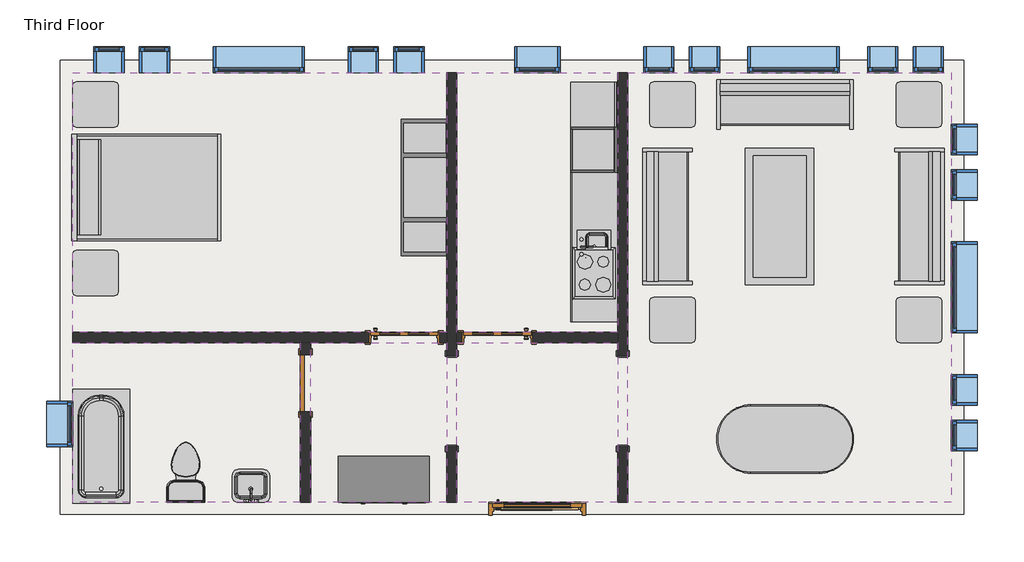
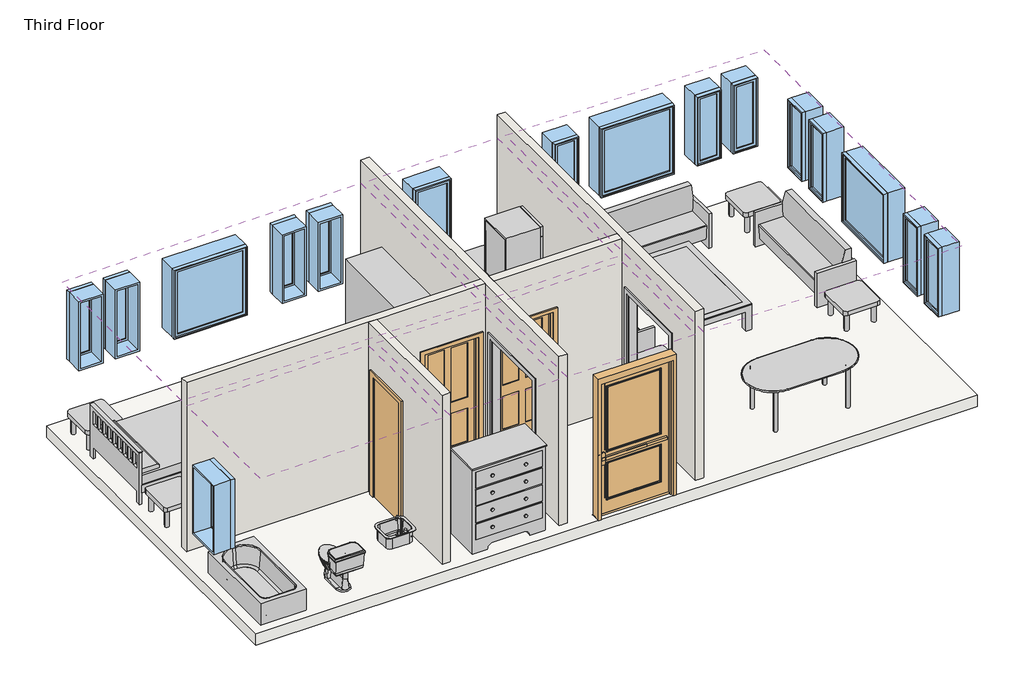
# One storey, incomplete: 17 windows, 15 furniture elements, 6 coverings, 6 proxies, 4 doors, 4 flow terminals, 4 walls, 1 slab.
"""IFC4 building model written with IfcOpenShell, lengths in millimetres."""

from ifc_helpers import new_model, si_unit, frame, origin, place, context, project, spatial, polyline, outline, extrude, faceted_brep, transform, mapped, element, save
from components import m_cook_top_4_unit2_0615_x_500mm_249f3515, m_dishwasher_610_x_610_x_875mm_54ecfc4c, m_kitchenette_medium_m_kitchenette_medium_3ff942c7, m_passage_opening_cased_1220_x_2134_mm_87a8d9c2, m_refrigerator_600_x_660mm_a466bf94, m_door_exterior_single_two_lite_1200_x_2400mm_30e12bfc, m_door_interior_single_4_panel_wood_900_x_2100mm_1f4ed184, m_door_interior_single_4_panel_wood_900_x_2100mm_40914eee, m_single_flush_0762_x_2134mm_0d89e411, m_sink_kitchen_island_450_x_450mm_f969cf2d, m_sink_vanity_square_500_x_440mm_1e229b74, m_toilet_domestic_3d_m_toilet_domestic_3d_5cb52bd4, m_toilet_domestic_3d_m_toilet_domestic_3d_183bbd19, m_tub_rectangular_3d_m_tub_rectangular_3d_3a981ad5, m_bed_shaker_1422_x_1981mm_double_096e7f55, m_counter_top_w_sink_hole_600mm_depth_8ccae52a, m_dresser_1220_x_1525_x_0610mm_18e1f140, m_entertainment_center_1830_x_1830_x_0610mm_f77a9b93, m_sofa_1830mm_f9e8a66b, m_table_coffee_0915_x_1830_x_0457mm_134cd960, m_table_dining_oval_0915_x_1830mm_a7cfbe21, m_table_end_0610_x_0160mm_cb6ea12e, m_fixed_0406_x_1220mm_57fee329, m_fixed_0406_x_1220mm_85c28f40, m_fixed_0610_x_1220mm_2c28ef1d, m_fixed_1220_x_1220_e08ff7af

model = new_model("IFC4")

# Units and contexts
model_context = context("Model", 3, world=origin())
ifc_project = project(units=[si_unit("LENGTHUNIT", "METRE", prefix="MILLI")], contexts=[model_context])

# Site, building, storey
site = spatial("IfcSite", under=ifc_project)
building = spatial("IfcBuilding", under=site)
storey = spatial("IfcBuildingStorey", under=building, Name="Third Floor", Elevation=6000.0)

# Proxies
placement = place(None, origin())
m_cook_top_4_unit2_0615_x_500mm_shape = m_cook_top_4_unit2_0615_x_500mm_249f3515(model_context)
element("IfcBuildingElementProxy", 1, Name="M_Cook Top-4 Unit2 : 0615 x 500mm", ObjectType="M_Cook Top-4 Unit2 : 0615 x 500mm", at=placement, inside=storey, context=model_context, shape_type="MappedRepresentation", body=[
    mapped(m_cook_top_4_unit2_0615_x_500mm_shape, transform((-11224.1822145, 11168.140104, 6031.0), x_axis=(0.0, 1.0, 0.0), y_axis=(-1.0, 0.0, 0.0), z_axis=(0.0, 0.0, 1.0))),
])
m_dishwasher_610_x_610_x_875mm_shape = m_dishwasher_610_x_610_x_875mm_54ecfc4c(model_context)
element("IfcBuildingElementProxy", 2, Name="M_Dishwasher : 610 x 610 x 875mm", ObjectType="M_Dishwasher : 610 x 610 x 875mm", at=placement, inside=storey, context=model_context, shape_type="MappedRepresentation", body=[
    mapped(m_dishwasher_610_x_610_x_875mm_shape, transform((-10967.5326497, 13033.8726355, 6000.0), x_axis=(0.0, 1.0, 0.0), y_axis=(-1.0, 0.0, 0.0), z_axis=(0.0, 0.0, 1.0))),
])
m_kitchenette_medium_m_kitchenette_medium_shape = m_kitchenette_medium_m_kitchenette_medium_3ff942c7(model_context)
element("IfcBuildingElementProxy", 3, Name="M_Kitchenette - Medium : M_Kitchenette - Medium", ObjectType="M_Kitchenette - Medium : M_Kitchenette - Medium", at=placement, inside=storey, context=model_context, shape_type="MappedRepresentation", body=[
    mapped(m_kitchenette_medium_m_kitchenette_medium_shape, transform((-11539.1822145, 11797.152399, 6000.0), x_axis=(0.0, 1.0, 0.0), y_axis=(-1.0, 0.0, 0.0), z_axis=(0.0, 0.0, 1.0))),
])
m_passage_opening_cased_1220_x_2134_mm_shape = m_passage_opening_cased_1220_x_2134_mm_87a8d9c2(model_context)
element("IfcBuildingElementProxy", 4, Name="M_Passage Opening-Cased : 1220 x 2134 mm", ObjectType="M_Passage Opening-Cased : 1220 x 2134 mm", at=placement, inside=storey, context=model_context, shape_type="MappedRepresentation", body=[
    mapped(m_passage_opening_cased_1220_x_2134_mm_shape, transform((-10841.0930086, 9462.255705, 6000.0), x_axis=(0.0, 1.0, 0.0), y_axis=(-1.0, 0.0, 0.0), z_axis=(0.0, 0.0, 1.0))),
])
element("IfcBuildingElementProxy", 5, Name="M_Passage Opening-Cased : 1220 x 2134 mm", ObjectType="M_Passage Opening-Cased : 1220 x 2134 mm", at=placement, inside=storey, context=model_context, shape_type="MappedRepresentation", body=[
    mapped(m_passage_opening_cased_1220_x_2134_mm_shape, transform((-13127.0930086, 9445.8783915, 6000.0), x_axis=(0.0, -1.0, 0.0), y_axis=(1.0, 0.0, 0.0), z_axis=(0.0, 0.0, 1.0))),
])
m_refrigerator_600_x_660mm_shape = m_refrigerator_600_x_660mm_a466bf94(model_context)
element("IfcBuildingElementProxy", 6, Name="M_Refrigerator : 600 x 660mm", ObjectType="M_Refrigerator : 600 x 660mm", at=placement, inside=storey, context=model_context, shape_type="MappedRepresentation", body=[
    mapped(m_refrigerator_600_x_660mm_shape, transform((-11242.9671243, 12874.1912466, 6000.0), x_axis=(0.0, 1.0, 0.0), y_axis=(-1.0, 0.0, 0.0), z_axis=(0.0, 0.0, 1.0))),
])

# Coverings
element("IfcCovering", 7, ObjectType="Plain", at=placement, inside=storey, context=model_context, shape_type="SweptSolid", body=[
    extrude(outline(polyline([(-18201.8430086, 13851.0670483), (-13194.8430086, 13851.0670483), (-13194.8430086, 10374.5670483), (-18201.8430086, 10374.5670483), (-18201.8430086, 13851.0670483)])), frame((0.0, 0.0, 8590.0), z_axis=(0.0, 0.0, 1.0), x_axis=(1.0, 0.0, 0.0)), (0.0, 0.0, 1.0), 57.0),
])
element("IfcCovering", 8, ObjectType="Plain", at=placement, inside=storey, context=model_context, shape_type="SweptSolid", body=[
    extrude(outline(polyline([(-13059.3430086, 10374.5670483), (-13059.3430086, 13851.0670483), (-10908.8430086, 13851.0670483), (-10908.8430086, 10374.5670483), (-13059.3430086, 10374.5670483)])), frame((0.0, 0.0, 8590.0), z_axis=(0.0, 0.0, 1.0), x_axis=(1.0, 0.0, 0.0)), (0.0, 0.0, 1.0), 57.0),
])
element("IfcCovering", 9, ObjectType="Plain", at=placement, inside=storey, context=model_context, shape_type="SweptSolid", body=[
    extrude(outline(polyline([(-10773.3430086, 8105.0670483), (-10773.3430086, 13851.0670483), (-6444.0930086, 13851.0670483), (-6444.0930086, 8105.0670483), (-10773.3430086, 8105.0670483)])), frame((0.0, 0.0, 8590.0), z_axis=(0.0, 0.0, 1.0), x_axis=(1.0, 0.0, 0.0)), (0.0, 0.0, 1.0), 57.0),
])
element("IfcCovering", 10, ObjectType="Plain", at=placement, inside=storey, context=model_context, shape_type="SweptSolid", body=[
    extrude(outline(polyline([(-10908.8430086, 8105.0670483), (-13059.3430086, 8105.0670483), (-13059.3430086, 10239.0670483), (-10908.8430086, 10239.0670483), (-10908.8430086, 8105.0670483)])), frame((0.0, 0.0, 8590.0), z_axis=(0.0, 0.0, 1.0), x_axis=(1.0, 0.0, 0.0)), (0.0, 0.0, 1.0), 57.0),
])
element("IfcCovering", 11, ObjectType="Plain", at=placement, inside=storey, context=model_context, shape_type="SweptSolid", body=[
    extrude(outline(polyline([(-13194.8430086, 8105.0670483), (-15018.3430086, 8105.0670483), (-15018.3430086, 10239.0670483), (-13194.8430086, 10239.0670483), (-13194.8430086, 8105.0670483)])), frame((0.0, 0.0, 8590.0), z_axis=(0.0, 0.0, 1.0), x_axis=(1.0, 0.0, 0.0)), (0.0, 0.0, 1.0), 57.0),
])
element("IfcCovering", 12, ObjectType="Plain", at=placement, inside=storey, context=model_context, shape_type="SweptSolid", body=[
    extrude(outline(polyline([(-15153.8430086, 10239.0670483), (-15153.8430086, 8105.0670483), (-18201.8430086, 8105.0670483), (-18201.8430086, 10239.0670483), (-15153.8430086, 10239.0670483)])), frame((0.0, 0.0, 8590.0), z_axis=(0.0, 0.0, 1.0), x_axis=(1.0, 0.0, 0.0)), (0.0, 0.0, 1.0), 57.0),
])

# Doors
m_door_exterior_single_two_lite_1200_x_2400mm_shape = m_door_exterior_single_two_lite_1200_x_2400mm_30e12bfc(model_context)
element("IfcDoor", 13, ObjectType="M_Door-Exterior-Single-Two_Lite : 1200 x 2400mm", at=placement, inside=storey, context=model_context, shape_type="MappedRepresentation", body=[
    mapped(m_door_exterior_single_two_lite_1200_x_2400mm_shape, transform((-11984.0930086, 7923.7170483, 6000.0), x_axis=(1.0, 0.0, 0.0), y_axis=(0.0, 1.0, 0.0), z_axis=(0.0, 0.0, 1.0))),
])
m_door_interior_single_4_panel_wood_900_x_2100mm_shape = m_door_interior_single_4_panel_wood_900_x_2100mm_1f4ed184(model_context)
element("IfcDoor", 14, ObjectType="M_Door-Interior-Single-4_Panel-Wood : 900 x 2100mm", at=placement, inside=storey, context=model_context, shape_type="MappedRepresentation", body=[
    mapped(m_door_interior_single_4_panel_wood_900_x_2100mm_shape, transform((-12518.0930086, 10309.9920483, 6000.0), x_axis=(-1.0, 0.0, 0.0), y_axis=(0.0, -1.0, 0.0), z_axis=(0.0, 0.0, 1.0))),
])
m_door_interior_single_4_panel_wood_900_x_2100mm_2_shape = m_door_interior_single_4_panel_wood_900_x_2100mm_40914eee(model_context)
element("IfcDoor", 15, ObjectType="M_Door-Interior-Single-4_Panel-Wood : 900 x 2100mm", at=placement, inside=storey, context=model_context, shape_type="MappedRepresentation", body=[
    mapped(m_door_interior_single_4_panel_wood_900_x_2100mm_2_shape, transform((-13766.0930086, 10309.9920483, 6000.0), x_axis=(1.0, 0.0, 0.0), y_axis=(0.0, 1.0, 0.0), z_axis=(0.0, 0.0, 1.0))),
])
m_single_flush_0762_x_2134mm_shape = m_single_flush_0762_x_2134mm_0d89e411(model_context)
element("IfcDoor", 16, ObjectType="M_Single-Flush : 0762 x 2134mm", at=placement, inside=storey, context=model_context, shape_type="MappedRepresentation", body=[
    mapped(m_single_flush_0762_x_2134mm_shape, transform((-15086.0930086, 9696.8170483, 6000.0), x_axis=(0.0, 1.0, 0.0), y_axis=(-1.0, 0.0, 0.0), z_axis=(0.0, 0.0, 1.0))),
])

# Flow terminals
m_sink_kitchen_island_450_x_450mm_shape = m_sink_kitchen_island_450_x_450mm_f969cf2d(model_context)
element("IfcFlowTerminal", 17, ObjectType="M_Sink Kitchen-Island : 450 x 450mm", at=placement, inside=storey, context=model_context, shape_type="MappedRepresentation", body=[
    mapped(m_sink_kitchen_island_450_x_450mm_shape, transform((-11223.7368134, 11504.7008634, 6031.0), x_axis=(0.0, 1.0, 0.0), y_axis=(-1.0, 0.0, 0.0), z_axis=(0.0, 0.0, 1.0))),
])
m_sink_vanity_square_500_x_440mm_shape = m_sink_vanity_square_500_x_440mm_1e229b74(model_context)
element("IfcFlowTerminal", 18, ObjectType="M_Sink Vanity-Square : 500 x 440mm", at=placement, inside=storey, context=model_context, shape_type="MappedRepresentation", body=[
    mapped(m_sink_vanity_square_500_x_440mm_shape, transform((-15802.3094072, 8285.2124494, 6000.0), x_axis=(-1.0, 0.0, 0.0), y_axis=(0.0, -1.0, 0.0), z_axis=(0.0, 0.0, 1.0))),
])
m_toilet_domestic_3d_m_toilet_domestic_3d_shape = m_toilet_domestic_3d_m_toilet_domestic_3d_5cb52bd4(model_context)
m_toilet_domestic_3d_m_toilet_domestic_3d_2_shape = m_toilet_domestic_3d_m_toilet_domestic_3d_183bbd19(model_context)
element("IfcFlowTerminal", 19, ObjectType="M_Toilet-Domestic-3D : M_Toilet-Domestic-3D", at=placement, inside=storey, context=model_context, shape_type="MappedRepresentation", body=[
    mapped(m_toilet_domestic_3d_m_toilet_domestic_3d_shape, transform((-16689.489036, 8599.7630756, 6000.0), x_axis=(-1.0, 0.0, 0.0), y_axis=(0.0, -1.0, 0.0), z_axis=(0.0, 0.0, 1.0))),
    mapped(m_toilet_domestic_3d_m_toilet_domestic_3d_2_shape, transform((-16689.489036, 8599.7630756, 6000.0), x_axis=(-1.0, 0.0, 0.0), y_axis=(0.0, -1.0, 0.0), z_axis=(0.0, 0.0, 1.0))),
])
m_tub_rectangular_3d_m_tub_rectangular_3d_shape = m_tub_rectangular_3d_m_tub_rectangular_3d_3a981ad5(model_context)
element("IfcFlowTerminal", 20, ObjectType="M_Tub-Rectangular-3D : M_Tub-Rectangular-3D", at=placement, inside=storey, context=model_context, shape_type="MappedRepresentation", body=[
    mapped(m_tub_rectangular_3d_m_tub_rectangular_3d_shape, transform((-18376.8430086, 9198.170017, 6000.0), x_axis=(0.0, 1.0, 0.0), y_axis=(-1.0, 0.0, 0.0), z_axis=(0.0, 0.0, 1.0))),
])

# Furniture
m_bed_shaker_1422_x_1981mm_double_shape = m_bed_shaker_1422_x_1981mm_double_096e7f55(model_context)
element("IfcFurniture", 21, ObjectType="M_Bed-Shaker : 1422 x 1981mm - Double", at=placement, inside=storey, context=model_context, shape_type="MappedRepresentation", body=[
    mapped(m_bed_shaker_1422_x_1981mm_double_shape, transform((-18201.8430086, 12334.7295483, 6000.0), x_axis=(0.0, 1.0, 0.0), y_axis=(-1.0, 0.0, 0.0), z_axis=(0.0, 0.0, 1.0))),
])
m_counter_top_w_sink_hole_600mm_depth_shape = m_counter_top_w_sink_hole_600mm_depth_8ccae52a(model_context)
element("IfcFurniture", 22, ObjectType="M_Counter Top w Sink Hole : 600mm Depth", at=placement, inside=storey, context=model_context, shape_type="MappedRepresentation", body=[
    mapped(m_counter_top_w_sink_hole_600mm_depth_shape, transform((-11539.1822145, 11720.852399, 6031.0), x_axis=(0.0, 1.0, 0.0), y_axis=(-1.0, 0.0, 0.0), z_axis=(0.0, 0.0, 1.0))),
])
m_dresser_1220_x_1525_x_0610mm_shape = m_dresser_1220_x_1525_x_0610mm_18e1f140(model_context)
element("IfcFurniture", 23, ObjectType="M_Dresser : 1220 x 1525 x 0610mm", at=placement, inside=storey, context=model_context, shape_type="MappedRepresentation", body=[
    mapped(m_dresser_1220_x_1525_x_0610mm_shape, transform((-13767.8997488, 8773.2300024, 6000.0), x_axis=(1.0, 0.0, 0.0), y_axis=(0.0, 1.0, 0.0), z_axis=(0.0, 0.0, 1.0))),
])
m_entertainment_center_1830_x_1830_x_0610mm_shape = m_entertainment_center_1830_x_1830_x_0610mm_f77a9b93(model_context)
element("IfcFurniture", 24, ObjectType="M_Entertainment center : 1830 x 1830 x 0610mm", at=placement, inside=storey, context=model_context, shape_type="MappedRepresentation", body=[
    mapped(m_entertainment_center_1830_x_1830_x_0610mm_shape, transform((-13906.2430086, 12315.6795483, 6000.0), x_axis=(0.0, 1.0, 0.0), y_axis=(-1.0, 0.0, 0.0), z_axis=(0.0, 0.0, 1.0))),
])
m_sofa_1830mm_shape = m_sofa_1830mm_f9e8a66b(model_context)
element("IfcFurniture", 25, ObjectType="M_Sofa : 1830mm", at=placement, inside=storey, context=model_context, shape_type="MappedRepresentation", body=[
    mapped(m_sofa_1830mm_shape, transform((-8739.4635004, 13279.9129499, 6000.0), x_axis=(1.0, 0.0, 0.0), y_axis=(0.0, 1.0, 0.0), z_axis=(0.0, 0.0, 1.0))),
])
element("IfcFurniture", 26, ObjectType="M_Sofa : 1830mm", at=placement, inside=storey, context=model_context, shape_type="MappedRepresentation", body=[
    mapped(m_sofa_1830mm_shape, transform((-7015.247107, 11996.4375401, 6000.0), x_axis=(0.0, -1.0, 0.0), y_axis=(1.0, 0.0, 0.0), z_axis=(0.0, 0.0, 1.0))),
])
element("IfcFurniture", 27, ObjectType="M_Sofa : 1830mm", at=placement, inside=storey, context=model_context, shape_type="MappedRepresentation", body=[
    mapped(m_sofa_1830mm_shape, transform((-10094.9389103, 11855.6965565, 6000.0), x_axis=(0.0, 1.0, 0.0), y_axis=(-1.0, 0.0, 0.0), z_axis=(0.0, 0.0, 1.0))),
])
m_table_coffee_0915_x_1830_x_0457mm_shape = m_table_coffee_0915_x_1830_x_0457mm_134cd960(model_context)
element("IfcFurniture", 28, ObjectType="M_Table-Coffee : 0915 x 1830 x 0457mm", at=placement, inside=storey, context=model_context, shape_type="MappedRepresentation", body=[
    mapped(m_table_coffee_0915_x_1830_x_0457mm_shape, transform((-8645.8819308, 11907.8012816, 6000.0), x_axis=(0.0, 1.0, 0.0), y_axis=(-1.0, 0.0, 0.0), z_axis=(0.0, 0.0, 1.0))),
])
m_table_dining_oval_0915_x_1830mm_shape = m_table_dining_oval_0915_x_1830mm_a7cfbe21(model_context)
element("IfcFurniture", 29, ObjectType="M_Table-Dining Oval : 0915 x 1830mm", at=placement, inside=storey, context=model_context, shape_type="MappedRepresentation", body=[
    mapped(m_table_dining_oval_0915_x_1830mm_shape, transform((-8267.2733365, 9307.4154089, 6000.0), x_axis=(1.0, 0.0, 0.0), y_axis=(0.0, 1.0, 0.0), z_axis=(0.0, 0.0, 1.0))),
])
m_table_end_0610_x_0160mm_shape = m_table_end_0610_x_0160mm_cb6ea12e(model_context)
element("IfcFurniture", 30, ObjectType="M_Table-End : 0610 x 0160mm", at=placement, inside=storey, context=model_context, shape_type="MappedRepresentation", body=[
    mapped(m_table_end_0610_x_0160mm_shape, transform((-10482.8266389, 13273.6670483, 6000.0), x_axis=(1.0, 0.0, 0.0), y_axis=(0.0, 1.0, 0.0), z_axis=(0.0, 0.0, 1.0))),
])
element("IfcFurniture", 31, ObjectType="M_Table-End : 0610 x 0160mm", at=placement, inside=storey, context=model_context, shape_type="MappedRepresentation", body=[
    mapped(m_table_end_0610_x_0160mm_shape, transform((-7182.8266389, 13273.6670483, 6000.0), x_axis=(1.0, 0.0, 0.0), y_axis=(0.0, 1.0, 0.0), z_axis=(0.0, 0.0, 1.0))),
])
element("IfcFurniture", 32, ObjectType="M_Table-End : 0610 x 0160mm", at=placement, inside=storey, context=model_context, shape_type="MappedRepresentation", body=[
    mapped(m_table_end_0610_x_0160mm_shape, transform((-7182.8266389, 10391.6670483, 6000.0), x_axis=(1.0, 0.0, 0.0), y_axis=(0.0, 1.0, 0.0), z_axis=(0.0, 0.0, 1.0))),
])
element("IfcFurniture", 33, ObjectType="M_Table-End : 0610 x 0160mm", at=placement, inside=storey, context=model_context, shape_type="MappedRepresentation", body=[
    mapped(m_table_end_0610_x_0160mm_shape, transform((-10482.8266389, 10391.6670483, 6000.0), x_axis=(1.0, 0.0, 0.0), y_axis=(0.0, 1.0, 0.0), z_axis=(0.0, 0.0, 1.0))),
])
element("IfcFurniture", 34, ObjectType="M_Table-End : 0610 x 0160mm", at=placement, inside=storey, context=model_context, shape_type="MappedRepresentation", body=[
    mapped(m_table_end_0610_x_0160mm_shape, transform((-18205.5766389, 13273.6670483, 6000.0), x_axis=(1.0, 0.0, 0.0), y_axis=(0.0, 1.0, 0.0), z_axis=(0.0, 0.0, 1.0))),
])
element("IfcFurniture", 35, ObjectType="M_Table-End : 0610 x 0160mm", at=placement, inside=storey, context=model_context, shape_type="MappedRepresentation", body=[
    mapped(m_table_end_0610_x_0160mm_shape, transform((-18205.5766389, 11018.6670483, 6000.0), x_axis=(1.0, 0.0, 0.0), y_axis=(0.0, 1.0, 0.0), z_axis=(0.0, 0.0, 1.0))),
])

# Slab
element("IfcSlab", 36, ObjectType="160mm Concrete With 50mm Metal Deck", at=placement, inside=storey, context=model_context, shape_type="SweptSolid", body=[
    extrude(outline(polyline([(-6279.0930086, 14016.0670483), (-6279.0930086, 7940.0670483), (-18366.8430086, 7940.0670483), (-18366.8430086, 14016.0670483), (-6279.0930086, 14016.0670483)])), frame((0.0, 0.0, 5790.0), z_axis=(0.0, 0.0, 1.0), x_axis=(1.0, 0.0, 0.0)), (0.0, 0.0, 1.0), 210.0),
])

# Walls
element("IfcWall", 37, ObjectType="Interior - 135mm Partition (2-hr)", at=placement, inside=storey, context=model_context, shape_type="Brep", body=[
    faceted_brep([(-10908.8430086, 13851.0670483, 6000.0), (-10908.8430086, 10374.5670483, 6000.0), (-10908.8430086, 10239.0670483, 6000.0), (-10908.8430086, 10064.0670483, 6000.0), (-10908.8430086, 10064.0670483, 8134.0), (-10908.8430086, 8844.0670483, 8134.0), (-10908.8430086, 8844.0670483, 6000.0), (-10908.8430086, 8105.0670483, 6000.0), (-10908.8430086, 8105.0670483, 9000.0), (-10908.8430086, 10239.0670483, 9000.0), (-10908.8430086, 10374.5670483, 9000.0), (-10908.8430086, 13851.0670483, 9000.0), (-10773.3430086, 10064.0670483, 8134.0), (-10773.3430086, 10064.0670483, 6000.0), (-10773.3430086, 13851.0670483, 6000.0), (-10773.3430086, 13851.0670483, 9000.0), (-10773.3430086, 8105.0670483, 9000.0), (-10773.3430086, 8105.0670483, 6000.0), (-10773.3430086, 8844.0670483, 6000.0), (-10773.3430086, 8844.0670483, 8134.0)], [[[0, 1, 2, 3, 4, 5, 6, 7, 8, 9, 10, 11]], [[12, 13, 14, 15, 16, 17, 18, 19]], [[18, 17, 7, 6]], [[14, 13, 3, 2, 1, 0]], [[11, 10, 9, 8, 16, 15]], [[6, 5, 19, 18]], [[4, 3, 13, 12]], [[5, 4, 12, 19]], [[0, 11, 15, 14]], [[8, 7, 17, 16]]]),
])
element("IfcWall", 38, ObjectType="Interior - 135mm Partition (2-hr)", at=placement, inside=storey, context=model_context, shape_type="Brep", body=[
    faceted_brep([(-13194.8430086, 8105.0670483, 9000.0), (-13194.8430086, 10239.0670483, 9000.0), (-13194.8430086, 10374.5670483, 9000.0), (-13194.8430086, 13851.0670483, 9000.0), (-13194.8430086, 13851.0670483, 6000.0), (-13194.8430086, 10374.5670483, 6000.0), (-13194.8430086, 10239.0670483, 6000.0), (-13194.8430086, 10064.0670483, 6000.0), (-13194.8430086, 10064.0670483, 8134.0), (-13194.8430086, 8844.0670483, 8134.0), (-13194.8430086, 8844.0670483, 6000.0), (-13194.8430086, 8105.0670483, 6000.0), (-13059.3430086, 13851.0670483, 9000.0), (-13059.3430086, 10374.5670483, 9000.0), (-13059.3430086, 10239.0670483, 9000.0), (-13059.3430086, 8105.0670483, 9000.0), (-13059.3430086, 8105.0670483, 6000.0), (-13059.3430086, 8844.0670483, 6000.0), (-13059.3430086, 8844.0670483, 8134.0), (-13059.3430086, 10064.0670483, 8134.0), (-13059.3430086, 10064.0670483, 6000.0), (-13059.3430086, 10239.0670483, 6000.0), (-13059.3430086, 10374.5670483, 6000.0), (-13059.3430086, 13851.0670483, 6000.0)], [[[0, 1, 2, 3, 4, 5, 6, 7, 8, 9, 10, 11]], [[12, 13, 14, 15, 16, 17, 18, 19, 20, 21, 22, 23]], [[4, 23, 22, 21, 20, 7, 6, 5]], [[16, 11, 10, 17]], [[3, 2, 1, 0, 15, 14, 13, 12]], [[19, 8, 7, 20]], [[9, 18, 17, 10]], [[8, 19, 18, 9]], [[4, 3, 12, 23]], [[0, 11, 16, 15]]]),
])
element("IfcWall", 39, ObjectType="Interior - 135mm Partition (2-hr)", at=placement, inside=storey, context=model_context, shape_type="Brep", body=[
    faceted_brep([(-10908.8430086, 10239.0670483, 6000.0), (-10908.8430086, 10239.0670483, 9000.0), (-13059.3430086, 10239.0670483, 9000.0), (-13059.3430086, 10239.0670483, 6000.0), (-12993.0930086, 10239.0670483, 6000.0), (-12993.0930086, 10239.0670483, 8125.0), (-12043.0930086, 10239.0670483, 8125.0), (-12043.0930086, 10239.0670483, 6000.0), (-10908.8430086, 10374.5670483, 9000.0), (-10908.8430086, 10374.5670483, 6000.0), (-12043.0930086, 10374.5670483, 6000.0), (-12043.0930086, 10374.5670483, 8125.0), (-12993.0930086, 10374.5670483, 8125.0), (-12993.0930086, 10374.5670483, 6000.0), (-13059.3430086, 10374.5670483, 6000.0), (-13059.3430086, 10374.5670483, 9000.0)], [[[0, 1, 2, 3, 4, 5, 6, 7]], [[8, 9, 10, 11, 12, 13, 14, 15]], [[9, 0, 7, 10]], [[13, 4, 3, 14]], [[1, 8, 15, 2]], [[1, 0, 9, 8]], [[3, 2, 15, 14]], [[5, 4, 13, 12]], [[6, 5, 12, 11]], [[7, 6, 11, 10]]]),
    faceted_brep([(-18201.8430086, 10239.0670483, 6000.0), (-15153.8430086, 10239.0670483, 6000.0), (-15018.3430086, 10239.0670483, 6000.0), (-14241.0930086, 10239.0670483, 6000.0), (-14241.0930086, 10239.0670483, 8125.0), (-13291.0930086, 10239.0670483, 8125.0), (-13291.0930086, 10239.0670483, 6000.0), (-13194.8430086, 10239.0670483, 6000.0), (-13194.8430086, 10239.0670483, 9000.0), (-15018.3430086, 10239.0670483, 9000.0), (-15153.8430086, 10239.0670483, 9000.0), (-18201.8430086, 10239.0670483, 9000.0), (-14241.0930086, 10374.5670483, 6000.0), (-18201.8430086, 10374.5670483, 6000.0), (-18201.8430086, 10374.5670483, 9000.0), (-13194.8430086, 10374.5670483, 9000.0), (-13194.8430086, 10374.5670483, 6000.0), (-13291.0930086, 10374.5670483, 6000.0), (-13291.0930086, 10374.5670483, 8125.0), (-14241.0930086, 10374.5670483, 8125.0)], [[[0, 1, 2, 3, 4, 5, 6, 7, 8, 9, 10, 11]], [[12, 13, 14, 15, 16, 17, 18, 19]], [[6, 17, 16, 7]], [[3, 2, 1, 0, 13, 12]], [[14, 11, 10, 9, 8, 15]], [[8, 7, 16, 15]], [[5, 18, 17, 6]], [[18, 5, 4, 19]], [[19, 4, 3, 12]], [[0, 11, 14, 13]]]),
])
element("IfcWall", 40, ObjectType="Interior - 135mm Partition (2-hr)", at=placement, inside=storey, context=model_context, shape_type="SweptSolid", body=[
    extrude(outline(polyline([(10239.0670483, 6000.0), (10077.8170483, 6000.0), (10077.8170483, 8134.0), (9315.8170483, 8134.0), (9315.8170483, 6000.0), (8105.0670483, 6000.0), (8105.0670483, 9000.0), (10239.0670483, 9000.0), (10239.0670483, 6000.0)])), frame((-15153.8430086, 0.0, 0.0), z_axis=(1.0, 0.0, 0.0), x_axis=(0.0, 1.0, 0.0)), (0.0, 0.0, 1.0), 135.5),
])

# Windows
m_fixed_0406_x_1220mm_shape = m_fixed_0406_x_1220mm_57fee329(model_context)
element("IfcWindow", 41, ObjectType="M_Fixed : 0406 x 1220mm", at=placement, inside=storey, context=model_context, shape_type="MappedRepresentation", body=[
    mapped(m_fixed_0406_x_1220mm_shape, transform((-17716.4430086, 14013.0670483, 6000.0), x_axis=(1.0, 0.0, 0.0), y_axis=(0.0, 1.0, 0.0), z_axis=(0.0, 0.0, 1.0))),
])
element("IfcWindow", 42, ObjectType="M_Fixed : 0406 x 1220mm", at=placement, inside=storey, context=model_context, shape_type="MappedRepresentation", body=[
    mapped(m_fixed_0406_x_1220mm_shape, transform((-17106.8430086, 14013.0670483, 6000.0), x_axis=(1.0, 0.0, 0.0), y_axis=(0.0, 1.0, 0.0), z_axis=(0.0, 0.0, 1.0))),
])
element("IfcWindow", 43, ObjectType="M_Fixed : 0406 x 1220mm", at=placement, inside=storey, context=model_context, shape_type="MappedRepresentation", body=[
    mapped(m_fixed_0406_x_1220mm_shape, transform((-9748.4930086, 14039.0670483, 6000.0), x_axis=(-1.0, 0.0, 0.0), y_axis=(0.0, -1.0, 0.0), z_axis=(0.0, 0.0, 1.0))),
])
element("IfcWindow", 44, ObjectType="M_Fixed : 0406 x 1220mm", at=placement, inside=storey, context=model_context, shape_type="MappedRepresentation", body=[
    mapped(m_fixed_0406_x_1220mm_shape, transform((-10358.0930086, 14039.0670483, 6000.0), x_axis=(-1.0, 0.0, 0.0), y_axis=(0.0, -1.0, 0.0), z_axis=(0.0, 0.0, 1.0))),
])
element("IfcWindow", 45, ObjectType="M_Fixed : 0406 x 1220mm", at=placement, inside=storey, context=model_context, shape_type="MappedRepresentation", body=[
    mapped(m_fixed_0406_x_1220mm_shape, transform((-6256.0930086, 12349.6670483, 6000.0), x_axis=(0.0, 1.0, 0.0), y_axis=(-1.0, 0.0, 0.0), z_axis=(0.0, 0.0, 1.0))),
])
element("IfcWindow", 46, ObjectType="M_Fixed : 0406 x 1220mm", at=placement, inside=storey, context=model_context, shape_type="MappedRepresentation", body=[
    mapped(m_fixed_0406_x_1220mm_shape, transform((-6256.0930086, 12959.2670483, 6000.0), x_axis=(0.0, 1.0, 0.0), y_axis=(-1.0, 0.0, 0.0), z_axis=(0.0, 0.0, 1.0))),
])
m_fixed_0406_x_1220mm_2_shape = m_fixed_0406_x_1220mm_85c28f40(model_context)
element("IfcWindow", 47, ObjectType="M_Fixed : 0406 x 1220mm", at=placement, inside=storey, context=model_context, shape_type="MappedRepresentation", body=[
    mapped(m_fixed_0406_x_1220mm_2_shape, transform((-13703.2430086, 14013.0670483, 6000.0), x_axis=(-1.0, 0.0, 0.0), y_axis=(0.0, -1.0, 0.0), z_axis=(0.0, 0.0, 1.0))),
])
element("IfcWindow", 48, ObjectType="M_Fixed : 0406 x 1220mm", at=placement, inside=storey, context=model_context, shape_type="MappedRepresentation", body=[
    mapped(m_fixed_0406_x_1220mm_2_shape, transform((-14312.8430086, 14013.0670483, 6000.0), x_axis=(-1.0, 0.0, 0.0), y_axis=(0.0, -1.0, 0.0), z_axis=(0.0, 0.0, 1.0))),
])
element("IfcWindow", 49, ObjectType="M_Fixed : 0406 x 1220mm", at=placement, inside=storey, context=model_context, shape_type="MappedRepresentation", body=[
    mapped(m_fixed_0406_x_1220mm_2_shape, transform((-7361.6930086, 14039.0670483, 6000.0), x_axis=(1.0, 0.0, 0.0), y_axis=(0.0, 1.0, 0.0), z_axis=(0.0, 0.0, 1.0))),
])
element("IfcWindow", 50, ObjectType="M_Fixed : 0406 x 1220mm", at=placement, inside=storey, context=model_context, shape_type="MappedRepresentation", body=[
    mapped(m_fixed_0406_x_1220mm_2_shape, transform((-6752.0930086, 14039.0670483, 6000.0), x_axis=(1.0, 0.0, 0.0), y_axis=(0.0, 1.0, 0.0), z_axis=(0.0, 0.0, 1.0))),
])
element("IfcWindow", 51, ObjectType="M_Fixed : 0406 x 1220mm", at=placement, inside=storey, context=model_context, shape_type="MappedRepresentation", body=[
    mapped(m_fixed_0406_x_1220mm_2_shape, transform((-6256.0930086, 9606.4670483, 6000.0), x_axis=(0.0, -1.0, 0.0), y_axis=(1.0, 0.0, 0.0), z_axis=(0.0, 0.0, 1.0))),
])
element("IfcWindow", 52, ObjectType="M_Fixed : 0406 x 1220mm", at=placement, inside=storey, context=model_context, shape_type="MappedRepresentation", body=[
    mapped(m_fixed_0406_x_1220mm_2_shape, transform((-6256.0930086, 8996.8670483, 6000.0), x_axis=(0.0, -1.0, 0.0), y_axis=(1.0, 0.0, 0.0), z_axis=(0.0, 0.0, 1.0))),
])
m_fixed_0610_x_1220mm_shape = m_fixed_0610_x_1220mm_2c28ef1d(model_context)
element("IfcWindow", 53, ObjectType="M_Fixed : 0610 x 1220mm", at=placement, inside=storey, context=model_context, shape_type="MappedRepresentation", body=[
    mapped(m_fixed_0610_x_1220mm_shape, transform((-11984.0930086, 14039.0670483, 6000.0), x_axis=(-1.0, 0.0, 0.0), y_axis=(0.0, -1.0, 0.0), z_axis=(0.0, 0.0, 1.0))),
])
element("IfcWindow", 54, ObjectType="M_Fixed : 0610 x 1220mm", at=placement, inside=storey, context=model_context, shape_type="MappedRepresentation", body=[
    mapped(m_fixed_0610_x_1220mm_shape, transform((-18389.8430086, 9150.0670483, 6000.0), x_axis=(0.0, -1.0, 0.0), y_axis=(1.0, 0.0, 0.0), z_axis=(0.0, 0.0, 1.0))),
])
m_fixed_1220_x_1220_shape = m_fixed_1220_x_1220_e08ff7af(model_context)
element("IfcWindow", 55, ObjectType="M_Fixed : 1220 x 1220", at=placement, inside=storey, context=model_context, shape_type="MappedRepresentation", body=[
    mapped(m_fixed_1220_x_1220_shape, transform((-15709.8430086, 14039.0670483, 6000.0), x_axis=(-1.0, 0.0, 0.0), y_axis=(0.0, -1.0, 0.0), z_axis=(0.0, 0.0, 1.0))),
])
element("IfcWindow", 56, ObjectType="M_Fixed : 1220 x 1220", at=placement, inside=storey, context=model_context, shape_type="MappedRepresentation", body=[
    mapped(m_fixed_1220_x_1220_shape, transform((-8555.0930086, 14039.0670483, 6000.0), x_axis=(-1.0, 0.0, 0.0), y_axis=(0.0, -1.0, 0.0), z_axis=(0.0, 0.0, 1.0))),
])
element("IfcWindow", 57, ObjectType="M_Fixed : 1220 x 1220", at=placement, inside=storey, context=model_context, shape_type="MappedRepresentation", body=[
    mapped(m_fixed_1220_x_1220_shape, transform((-6256.0930086, 10978.0670483, 6000.0), x_axis=(0.0, 1.0, 0.0), y_axis=(-1.0, 0.0, 0.0), z_axis=(0.0, 0.0, 1.0))),
])

save(model, "model.ifc")
